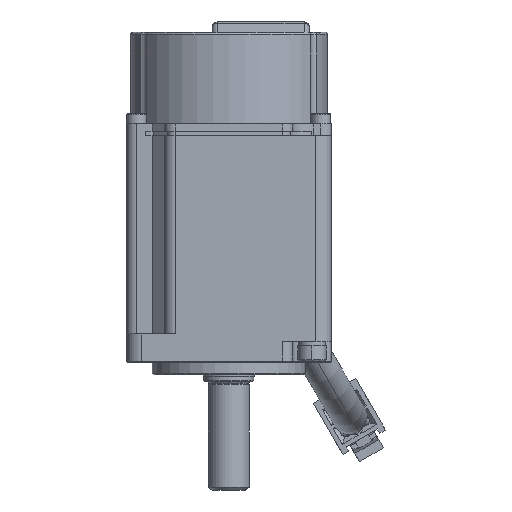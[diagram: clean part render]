
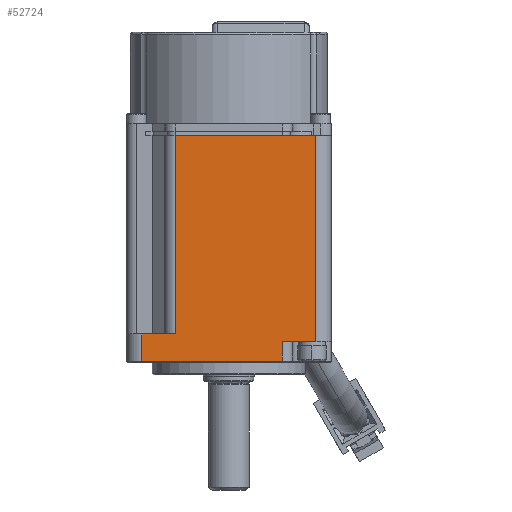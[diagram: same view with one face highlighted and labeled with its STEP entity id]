
A CAD part, front view. The second image highlights one B-rep face of the part: STEP entity #52724.
In plain terms, the highlighted planar face has unit normal (0, -1, 0).
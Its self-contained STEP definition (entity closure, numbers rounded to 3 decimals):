
#222 = VERTEX_POINT ( 'NONE', #36098 ) ;
#273 = CARTESIAN_POINT ( 'NONE',  ( 17., -20., -1.5 ) ) ;
#1512 = DIRECTION ( 'NONE',  ( 1., 0., 0. ) ) ;
#1556 = VERTEX_POINT ( 'NONE', #38934 ) ;
#3603 = ORIENTED_EDGE ( 'NONE', *, *, #71804, .F. ) ;
#4303 = LINE ( 'NONE', #67049, #75833 ) ;
#5217 = LINE ( 'NONE', #22053, #39883 ) ;
#5953 = CARTESIAN_POINT ( 'NONE',  ( -10.5, -20., 38.8 ) ) ;
#7526 = LINE ( 'NONE', #25764, #42145 ) ;
#8180 = VERTEX_POINT ( 'NONE', #5953 ) ;
#9716 = ORIENTED_EDGE ( 'NONE', *, *, #24310, .T. ) ;
#11215 = ORIENTED_EDGE ( 'NONE', *, *, #22680, .T. ) ;
#12677 = ORIENTED_EDGE ( 'NONE', *, *, #21508, .T. ) ;
#12865 = CARTESIAN_POINT ( 'NONE',  ( 10.5, -20., 0. ) ) ;
#12976 = VECTOR ( 'NONE', #87336, 1000. ) ;
#20424 = VECTOR ( 'NONE', #61348, 1000. ) ;
#20710 = EDGE_CURVE ( 'NONE', #62945, #26154, #49856, .T. ) ;
#21129 = VECTOR ( 'NONE', #50861, 1000. ) ;
#21508 = EDGE_CURVE ( 'NONE', #26154, #49535, #73567, .T. ) ;
#22053 = CARTESIAN_POINT ( 'NONE',  ( -10.5, -20., 11.85 ) ) ;
#22142 = EDGE_CURVE ( 'NONE', #49535, #64940, #37564, .T. ) ;
#22215 = AXIS2_PLACEMENT_3D ( 'NONE', #84332, #43031, #1512 ) ;
#22680 = EDGE_CURVE ( 'NONE', #64940, #72329, #23312, .T. ) ;
#23312 = LINE ( 'NONE', #71073, #21129 ) ;
#24310 = EDGE_CURVE ( 'NONE', #72329, #8180, #71577, .T. ) ;
#25667 = ORIENTED_EDGE ( 'NONE', *, *, #22142, .T. ) ;
#25764 = CARTESIAN_POINT ( 'NONE',  ( -17., -20., 0. ) ) ;
#26154 = VERTEX_POINT ( 'NONE', #67249 ) ;
#26751 = FACE_OUTER_BOUND ( 'NONE', #59400, .T. ) ;
#29007 = DIRECTION ( 'NONE',  ( 0., 0., 1. ) ) ;
#33514 = ORIENTED_EDGE ( 'NONE', *, *, #72053, .F. ) ;
#34647 = VECTOR ( 'NONE', #59469, 1000. ) ;
#35567 = ORIENTED_EDGE ( 'NONE', *, *, #48414, .F. ) ;
#35673 = PLANE ( 'NONE',  #22215 ) ;
#36098 = CARTESIAN_POINT ( 'NONE',  ( -10.5, -20., 0. ) ) ;
#37564 = LINE ( 'NONE', #273, #56041 ) ;
#38825 = ORIENTED_EDGE ( 'NONE', *, *, #20710, .T. ) ;
#38934 = CARTESIAN_POINT ( 'NONE',  ( -17., -20., 0. ) ) ;
#39156 = CARTESIAN_POINT ( 'NONE',  ( 17., -20., -5.3 ) ) ;
#39716 = DIRECTION ( 'NONE',  ( 0., 0., 1. ) ) ;
#39883 = VECTOR ( 'NONE', #29007, 1000. ) ;
#42145 = VECTOR ( 'NONE', #39716, 1000. ) ;
#43031 = DIRECTION ( 'NONE',  ( 0., -1., 0. ) ) ;
#45215 = CARTESIAN_POINT ( 'NONE',  ( 17., -20., 38.8 ) ) ;
#46500 = DIRECTION ( 'NONE',  ( 1., 0., 0. ) ) ;
#48414 = EDGE_CURVE ( 'NONE', #1556, #222, #4303, .T. ) ;
#49535 = VERTEX_POINT ( 'NONE', #61192 ) ;
#49856 = LINE ( 'NONE', #39156, #12976 ) ;
#50861 = DIRECTION ( 'NONE',  ( 0., 0., 1. ) ) ;
#52724 = ADVANCED_FACE ( 'NONE', ( #26751 ), #35673, .T. ) ;
#56041 = VECTOR ( 'NONE', #89584, 1000. ) ;
#59400 = EDGE_LOOP ( 'NONE', ( #35567, #3603, #38825, #12677, #25667, #11215, #9716, #33514 ) ) ;
#59469 = DIRECTION ( 'NONE',  ( -1., 0., 0. ) ) ;
#61192 = CARTESIAN_POINT ( 'NONE',  ( 10.5, -20., -1.5 ) ) ;
#61348 = DIRECTION ( 'NONE',  ( 0., 0., 1. ) ) ;
#62945 = VERTEX_POINT ( 'NONE', #68037 ) ;
#63503 = CARTESIAN_POINT ( 'NONE',  ( 17., -20., -1.5 ) ) ;
#64940 = VERTEX_POINT ( 'NONE', #63503 ) ;
#67049 = CARTESIAN_POINT ( 'NONE',  ( 0., -20., 0. ) ) ;
#67249 = CARTESIAN_POINT ( 'NONE',  ( 10.5, -20., -5.3 ) ) ;
#68037 = CARTESIAN_POINT ( 'NONE',  ( -17., -20., -5.3 ) ) ;
#71073 = CARTESIAN_POINT ( 'NONE',  ( 17., -20., 0. ) ) ;
#71577 = LINE ( 'NONE', #45215, #34647 ) ;
#71804 = EDGE_CURVE ( 'NONE', #62945, #1556, #7526, .T. ) ;
#72053 = EDGE_CURVE ( 'NONE', #222, #8180, #5217, .T. ) ;
#72329 = VERTEX_POINT ( 'NONE', #75011 ) ;
#73567 = LINE ( 'NONE', #12865, #20424 ) ;
#75011 = CARTESIAN_POINT ( 'NONE',  ( 17., -20., 38.8 ) ) ;
#75833 = VECTOR ( 'NONE', #46500, 1000. ) ;
#84332 = CARTESIAN_POINT ( 'NONE',  ( 17., -20., 0. ) ) ;
#87336 = DIRECTION ( 'NONE',  ( 1., 0., 0. ) ) ;
#89584 = DIRECTION ( 'NONE',  ( 1., 0., 0. ) ) ;
